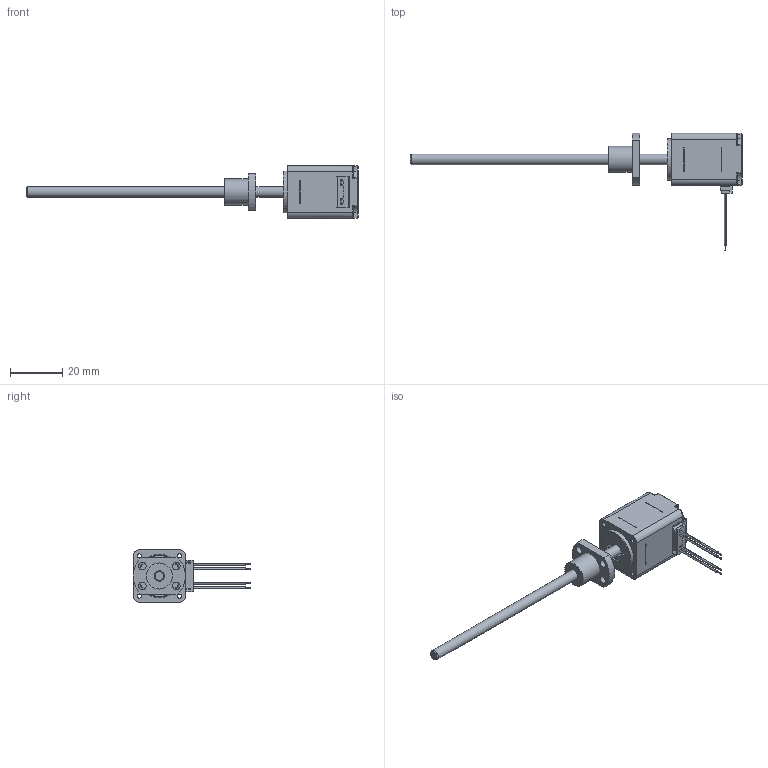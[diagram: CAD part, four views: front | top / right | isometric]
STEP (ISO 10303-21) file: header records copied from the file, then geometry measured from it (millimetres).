
FILE_DESCRIPTION( ('This file contains a STEP AP42 implementation' ,'as created by ZW3D STEP Interface translator.' ,'') ,'2;1' );
FILE_NAME( '21EA4X-2.5-XXX-B_潠趙婦釐.stp' ,'26 1 4.13 428', (''), ('ZWCAD Software Co.'), 'Version 1.0', 'ZW3D to STEP translator', '' );
FILE_SCHEMA(('AUTOMOTIVE_DESIGN { 1 0 10303 214 1 1 1 1 }'));
Length unit declared in the file: millimetre
Products named in the file (1): 0
Bounding box: 127.2 x 45 x 20 mm (x, y, z)
Volume: 7476.4 mm3; surface area: 8920.9 mm2
Topology: 2 solids, 2 shells, 443 faces, 1305 edges, 833 vertices
Faces by surface type: plane 269, cylinder 113, bspline 54, cone 7
Full cylindrical faces by diameter (mm): 0.67 x8, 1.6 x4, 2.2 x4, 2.9 x4, 4 x2, 5.5 x2, 9 x1, 10 x1, 12.5 x1, 12.7 x1, 16 x1, 16.6 x1
Entity records: 19298 total; most frequent: CARTESIAN_POINT 6987, ORIENTED_EDGE 2598, DIRECTION 2306, EDGE_CURVE 1299, VERTEX_POINT 833, VECTOR 826, LINE 826, AXIS2_PLACEMENT_3D 740
